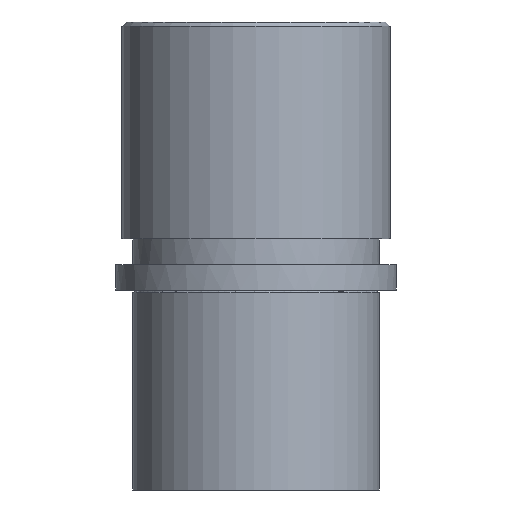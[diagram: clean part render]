
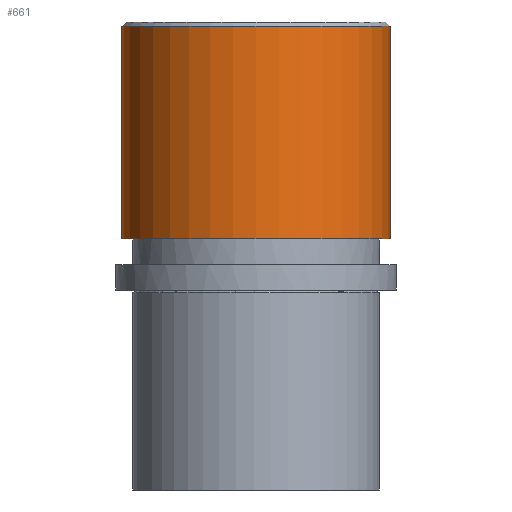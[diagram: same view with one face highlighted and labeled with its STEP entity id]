
A CAD part, front view. The second image highlights one B-rep face of the part: STEP entity #661.
In plain terms, the highlighted cylindrical face has radius 31.5 mm (diameter 63 mm), a partial arc.
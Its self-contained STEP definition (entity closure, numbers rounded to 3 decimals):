
#505=CARTESIAN_POINT('Vertex',(-31.5,0.,62.)) ;
#512=CARTESIAN_POINT('Vertex',(31.5,0.,62.)) ;
#532=CARTESIAN_POINT('Axis2P3D Location',(0.,0.,62.)) ;
#619=CARTESIAN_POINT('Line Origine',(-31.5,0.,63.)) ;
#623=CARTESIAN_POINT('Vertex',(-31.5,0.,12.)) ;
#626=CARTESIAN_POINT('Line Origine',(31.5,0.,63.)) ;
#630=CARTESIAN_POINT('Vertex',(31.5,0.,12.)) ;
#645=CARTESIAN_POINT('Axis2P3D Location',(0.,0.,63.)) ;
#650=CARTESIAN_POINT('Axis2P3D Location',(0.,0.,12.)) ;
#533=DIRECTION('Axis2P3D Direction',(0.,0.,-1.)) ;
#620=DIRECTION('Vector Direction',(0.,0.,-1.)) ;
#627=DIRECTION('Vector Direction',(0.,0.,-1.)) ;
#646=DIRECTION('Axis2P3D Direction',(0.,0.,-1.)) ;
#647=DIRECTION('Axis2P3D XDirection',(1.,0.,0.)) ;
#651=DIRECTION('Axis2P3D Direction',(0.,0.,-1.)) ;
#534=AXIS2_PLACEMENT_3D('Circle Axis2P3D',#532,#533,$) ;
#648=AXIS2_PLACEMENT_3D('Cylinder Axis2P3D',#645,#646,#647) ;
#652=AXIS2_PLACEMENT_3D('Circle Axis2P3D',#650,#651,$) ;
#656=ORIENTED_EDGE('',*,*,#632,.T.) ;
#657=ORIENTED_EDGE('',*,*,#536,.F.) ;
#658=ORIENTED_EDGE('',*,*,#625,.T.) ;
#659=ORIENTED_EDGE('',*,*,#654,.T.) ;
#621=VECTOR('Line Direction',#620,1.) ;
#628=VECTOR('Line Direction',#627,1.) ;
#661=ADVANCED_FACE('734-38',(#660),#649,.T.) ;
#535=CIRCLE('generated circle',#534,31.5) ;
#653=CIRCLE('generated circle',#652,31.5) ;
#649=CYLINDRICAL_SURFACE('generated cylinder',#648,31.5) ;
#536=EDGE_CURVE('',#506,#513,#535,.F.) ;
#625=EDGE_CURVE('',#506,#624,#622,.T.) ;
#632=EDGE_CURVE('',#631,#513,#629,.F.) ;
#654=EDGE_CURVE('',#624,#631,#653,.F.) ;
#655=EDGE_LOOP('',(#656,#657,#658,#659)) ;
#660=FACE_OUTER_BOUND('',#655,.T.) ;
#622=LINE('Line',#619,#621) ;
#629=LINE('Line',#626,#628) ;
#506=VERTEX_POINT('',#505) ;
#513=VERTEX_POINT('',#512) ;
#624=VERTEX_POINT('',#623) ;
#631=VERTEX_POINT('',#630) ;
